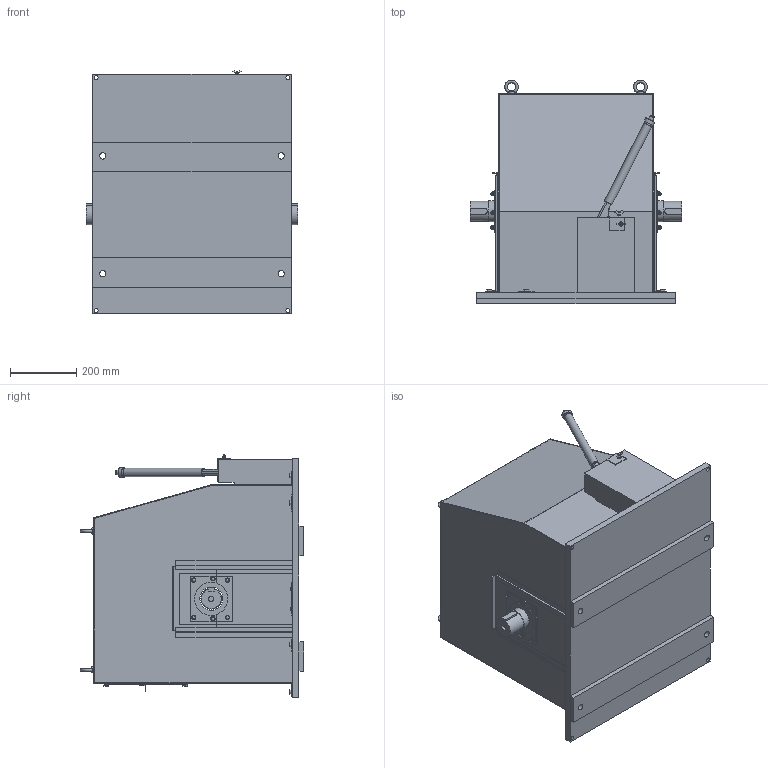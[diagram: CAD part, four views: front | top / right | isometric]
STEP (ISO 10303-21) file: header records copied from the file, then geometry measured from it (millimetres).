
FILE_DESCRIPTION (( 'STEP AP203' ), '1' );
FILE_NAME ('ECE-1514-02_水門用直流電磁ブレーキ.STEP', '2026-03-03T01:50:31', ( '' ), ( '' ), 'SwSTEP 2.0', 'SolidWorks 2025', '' );
FILE_SCHEMA (( 'CONFIG_CONTROL_DESIGN' ));
Length unit declared in the file: millimetre
Products named in the file (1): ECE-1514-02_水門用直流電磁ブレーキ
Bounding box: 640 x 676.48 x 737.7 mm (x, y, z)
Volume: 17785714.3 mm3; surface area: 4504126.7 mm2
Topology: 6 solids, 6 shells, 1064 faces, 2703 edges, 1707 vertices
Faces by surface type: plane 678, cylinder 177, cone 162, torus 21, sphere 20, bspline 6
Full cylindrical faces by diameter (mm): 6 x1, 7 x3, 8.5 x4, 9.5 x1, 10 x16, 12 x4, 13 x18, 16 x1, 18 x7, 19 x8, 24 x1, 25 x1, 25.4 x1, 30 x1, 60 x2, 65 x5, 70 x2
Entity records: 32295 total; most frequent: CARTESIAN_POINT 7508, ORIENTED_EDGE 5144, DIRECTION 4844, EDGE_CURVE 2572, VECTOR 1684, LINE 1684, VERTEX_POINT 1671, AXIS2_PLACEMENT_3D 1580
